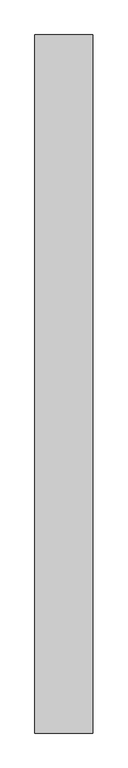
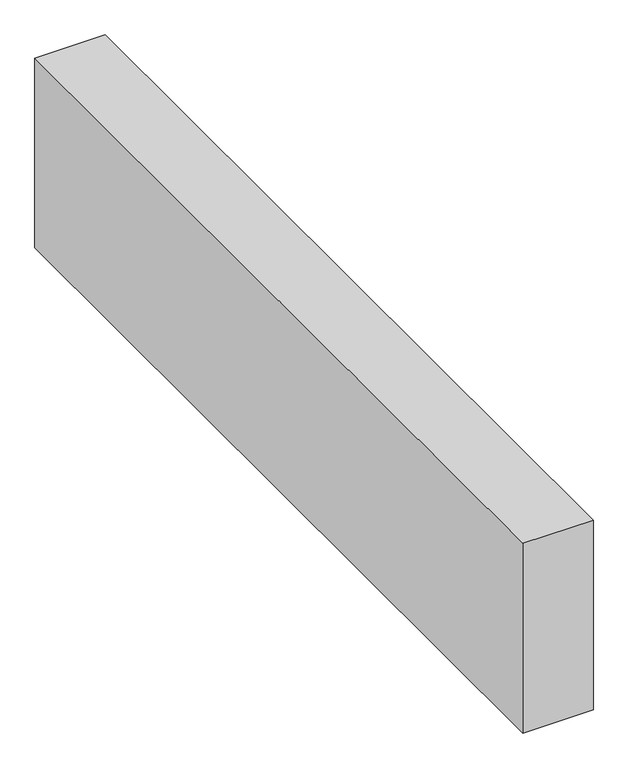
"""IFC4 building model written with IfcOpenShell, lengths in millimetres: proxy geometry."""

from ifc_helpers import new_model, si_unit, frame, origin, place, context, project, spatial, polyline, outline, extrude, source, transform, mapped, element, save


def structural_framing_c0783d92(model_context):
    return source(origin(), model_context, "Body", "SweptSolid", [
        extrude(outline(polyline([(70.0, -843.7), (-70.0, -843.7), (-70.0, 843.7), (70.0, 843.7), (70.0, -843.7)])), frame((0.0, 0.0, -400.0), z_axis=(0.0, 0.0, 1.0), x_axis=(1.0, 0.0, 0.0)), (0.0, 0.0, 1.0), 400.0),
    ])


if __name__ == "__main__":
    model = new_model("IFC4")
    model_context = context("Model", 3, world=origin())
    ifc_project = project(units=[si_unit("LENGTHUNIT", "METRE", prefix="MILLI")], contexts=[model_context])
    site = spatial("IfcSite", under=ifc_project)
    building = spatial("IfcBuilding", under=site)
    placement = place(None, origin())
    structural_framing_shape = structural_framing_c0783d92(model_context)
    element("IfcBuildingElementProxy", 1, Name="Structural Framing", at=placement, inside=building, context=model_context, shape_type="MappedRepresentation", body=[
        mapped(structural_framing_shape, transform((0.0, 0.0, 0.0), x_axis=(1.0, 0.0, 0.0), y_axis=(0.0, 1.0, 0.0), z_axis=(0.0, 0.0, 1.0))),
    ])
    save(model, "model.ifc")
